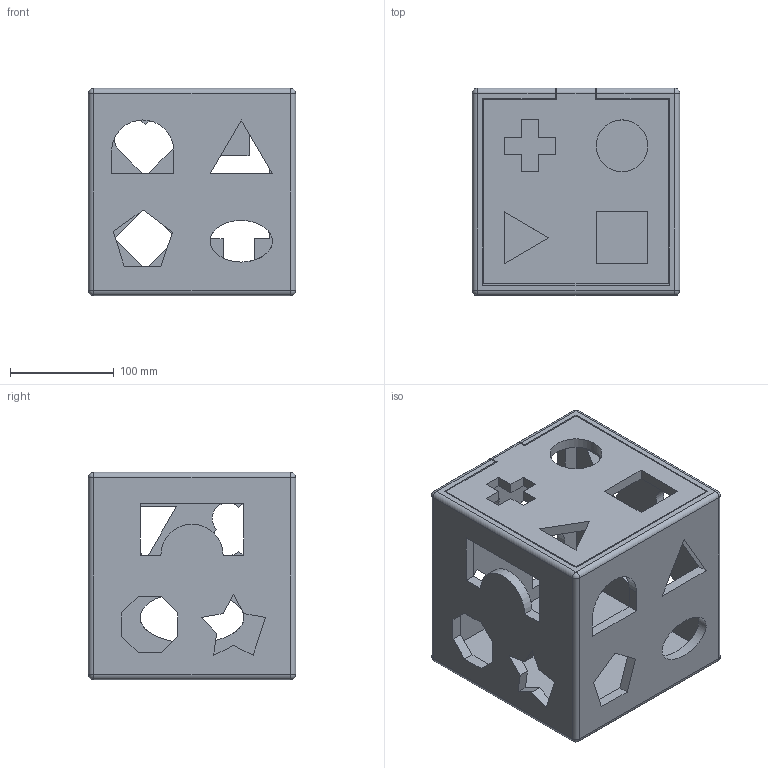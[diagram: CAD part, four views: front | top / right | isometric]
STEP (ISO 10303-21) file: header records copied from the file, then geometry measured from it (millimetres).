
FILE_DESCRIPTION(/* description */ (''),/* implementation_level */ '2;1');
FILE_NAME(/* name */ 'Juguete_nios_Izq.stp',/* time_stamp */ '2026-06-15T21:39:28+02:00',/* author */ ('algob'),/* organization */ (''),/* preprocessor_version */ 'ST-DEVELOPER v19.2',/* originating_system */ 'Autodesk Inventor 2024',/* authorisation */ '');
FILE_SCHEMA (('AUTOMOTIVE_DESIGN { 1 0 10303 214 3 1 1 }'));
Length unit declared in the file: millimetre
Products named in the file (1): Juguete_niños_Izq
Bounding box: 200 x 200 x 200 mm (x, y, z)
Volume: 1753882 mm3; surface area: 399278.1 mm2
Topology: 2 solids, 2 shells, 130 faces, 354 edges, 228 vertices
Faces by surface type: plane 96, cylinder 24, sphere 8, bspline 2
Full cylindrical faces by diameter (mm): 50 x1
Entity records: 4178 total; most frequent: CARTESIAN_POINT 747, ORIENTED_EDGE 708, DIRECTION 664, EDGE_CURVE 354, LINE 302, VECTOR 302, VERTEX_POINT 228, AXIS2_PLACEMENT_3D 181
